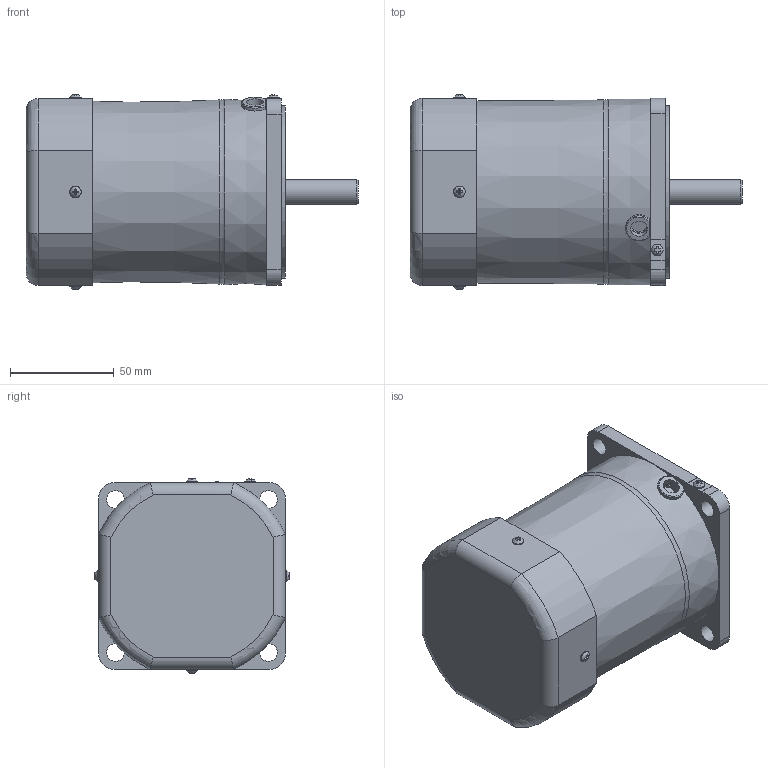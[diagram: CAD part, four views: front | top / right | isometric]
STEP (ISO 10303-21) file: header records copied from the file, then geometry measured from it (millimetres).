
FILE_DESCRIPTION(/* description */ (''),/* implementation_level */ '2;1');
FILE_NAME(/* name */ 'Y:\제품연구개발\3. 도면\3. 고객배포용\3D_홈페이지용\01-1 Standard AC SG Series\0704) 미주향 SG 도면\3D MOTOR\REVERSIBLE\SG9R60S\SG9R60S.stp',/* time_stamp */ '2023-11-23T10:38:39+09:00',/* author */ ('shyi1037'),/* organization */ (''),/* preprocessor_version */ 'ST-DEVELOPER v18.1',/* originating_system */ 'Autodesk Inventor 2022',/* authorisation */ '');
FILE_SCHEMA (('AUTOMOTIVE_DESIGN { 1 0 10303 214 3 1 1 }'));
Length unit declared in the file: millimetre
Products named in the file (5): S9I60G_Ciam; S9I60GㅁCE; 6_CORD BUSH; FAN COVER; S9_60_HOUSING A
Assembly tree (4 placements, depth 2):
  S9I60G_Ciam
    S9I60GㅁCE
    6_CORD BUSH
    FAN COVER
    S9_60_HOUSING A
Bounding box: 159.8 x 93.89 x 93.89 mm (x, y, z)
Volume: 875905.2 mm3; surface area: 86072.7 mm2
Topology: 4 solids, 8 shells, 208 faces, 523 edges, 344 vertices
Faces by surface type: plane 130, cylinder 49, torus 14, cone 10, bspline 5
Full cylindrical faces by diameter (mm): 3 x8, 3.5 x4, 5.6 x5, 8 x1, 8.5 x4, 10 x1, 12 x1, 40 x1, 83 x1, 86 x1
Entity records: 7042 total; most frequent: CARTESIAN_POINT 1875, ORIENTED_EDGE 1046, DIRECTION 1008, EDGE_CURVE 523, AXIS2_PLACEMENT_3D 364, VERTEX_POINT 344, LINE 280, VECTOR 280
